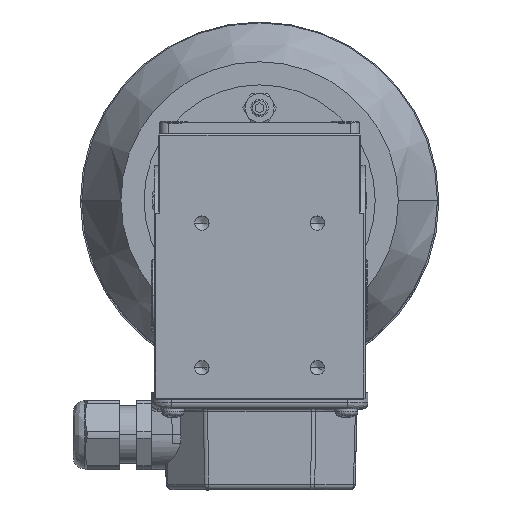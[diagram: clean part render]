
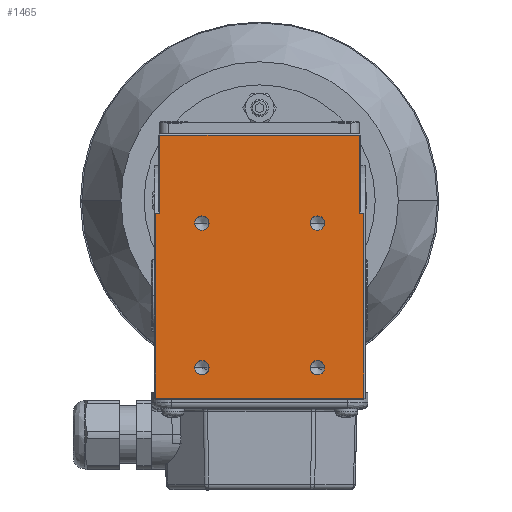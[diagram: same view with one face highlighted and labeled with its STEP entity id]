
A CAD part, top view. The second image highlights one B-rep face of the part: STEP entity #1465.
In plain terms, the highlighted planar face has unit normal (0, 0, 1).
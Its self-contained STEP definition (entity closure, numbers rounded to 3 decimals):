
#163 = DIRECTION ( 'NONE',  ( 1., 0., 0. ) ) ;
#459 = ORIENTED_EDGE ( 'NONE', *, *, #18308, .F. ) ;
#540 = CARTESIAN_POINT ( 'NONE',  ( -36., 56., 35. ) ) ;
#634 = CARTESIAN_POINT ( 'NONE',  ( -22.5, 25., 35. ) ) ;
#795 = CARTESIAN_POINT ( 'NONE',  ( -34.5, 55.5, 35. ) ) ;
#1042 = AXIS2_PLACEMENT_3D ( 'NONE', #1812, #9752, #4156 ) ;
#1127 = AXIS2_PLACEMENT_3D ( 'NONE', #9892, #11224, #9148 ) ;
#1377 = VERTEX_POINT ( 'NONE', #12931 ) ;
#1465 = ADVANCED_FACE ( 'NONE', ( #5448, #5834, #13224, #13625, #21575 ), #21163, .F. ) ;
#1598 = EDGE_CURVE ( 'NONE', #5089, #25063, #6005, .T. ) ;
#1697 = VERTEX_POINT ( 'NONE', #12645 ) ;
#1812 = CARTESIAN_POINT ( 'NONE',  ( 20., -25., 35. ) ) ;
#2008 = VECTOR ( 'NONE', #24921, 1000. ) ;
#2037 = DIRECTION ( 'NONE',  ( 0., -1., 0. ) ) ;
#2063 = LINE ( 'NONE', #6078, #15323 ) ;
#2746 = VECTOR ( 'NONE', #17972, 1000. ) ;
#2884 = VECTOR ( 'NONE', #2037, 1000. ) ;
#3007 = VERTEX_POINT ( 'NONE', #6832 ) ;
#3823 = ORIENTED_EDGE ( 'NONE', *, *, #25646, .T. ) ;
#3834 = DIRECTION ( 'NONE',  ( 0., 1., 0. ) ) ;
#3869 = DIRECTION ( 'NONE',  ( 0., 1., 0. ) ) ;
#3870 = CARTESIAN_POINT ( 'NONE',  ( -36., 28.284, 35. ) ) ;
#4144 = DIRECTION ( 'NONE',  ( 1., 0., 0. ) ) ;
#4156 = DIRECTION ( 'NONE',  ( 1., 0., 0. ) ) ;
#4343 = DIRECTION ( 'NONE',  ( 0., 0., 1. ) ) ;
#4498 = CARTESIAN_POINT ( 'NONE',  ( 17.5, 25., 35. ) ) ;
#4635 = EDGE_CURVE ( 'NONE', #11830, #21497, #10957, .T. ) ;
#4821 = CARTESIAN_POINT ( 'NONE',  ( 22.5, 25., 35. ) ) ;
#5089 = VERTEX_POINT ( 'NONE', #7043 ) ;
#5382 = DIRECTION ( 'NONE',  ( 0., 0., 1. ) ) ;
#5448 = FACE_BOUND ( 'NONE', #8088, .T. ) ;
#5698 = EDGE_CURVE ( 'NONE', #15799, #20010, #23585, .T. ) ;
#5711 = DIRECTION ( 'NONE',  ( 0., 0., -1. ) ) ;
#5834 = FACE_BOUND ( 'NONE', #21078, .T. ) ;
#6005 = CIRCLE ( 'NONE', #13014, 2.5 ) ;
#6078 = CARTESIAN_POINT ( 'NONE',  ( -42.5, -35.5, 35. ) ) ;
#6100 = CIRCLE ( 'NONE', #1127, 2.5 ) ;
#6163 = ORIENTED_EDGE ( 'NONE', *, *, #5698, .F. ) ;
#6361 = VERTEX_POINT ( 'NONE', #795 ) ;
#6533 = VECTOR ( 'NONE', #3834, 1000. ) ;
#6555 = AXIS2_PLACEMENT_3D ( 'NONE', #15239, #5382, #24918 ) ;
#6678 = DIRECTION ( 'NONE',  ( 1., 0., 0. ) ) ;
#6832 = CARTESIAN_POINT ( 'NONE',  ( 36., -35.5, 35. ) ) ;
#7043 = CARTESIAN_POINT ( 'NONE',  ( -17.5, 25., 35. ) ) ;
#7084 = EDGE_CURVE ( 'NONE', #13239, #6361, #7618, .T. ) ;
#7446 = EDGE_CURVE ( 'NONE', #1697, #1377, #13871, .T. ) ;
#7618 = LINE ( 'NONE', #13700, #19264 ) ;
#8021 = CARTESIAN_POINT ( 'NONE',  ( -34.5, 56., 35. ) ) ;
#8088 = EDGE_LOOP ( 'NONE', ( #10497, #18696 ) ) ;
#8404 = CARTESIAN_POINT ( 'NONE',  ( -20., 25., 35. ) ) ;
#8627 = CARTESIAN_POINT ( 'NONE',  ( -34.5, 28.284, 35. ) ) ;
#9057 = CIRCLE ( 'NONE', #14425, 2.5 ) ;
#9148 = DIRECTION ( 'NONE',  ( 1., 0., 0. ) ) ;
#9729 = CARTESIAN_POINT ( 'NONE',  ( -42.5, 56., 35. ) ) ;
#9752 = DIRECTION ( 'NONE',  ( 0., 0., 1. ) ) ;
#9856 = AXIS2_PLACEMENT_3D ( 'NONE', #22160, #4343, #20562 ) ;
#9892 = CARTESIAN_POINT ( 'NONE',  ( 20., 25., 35. ) ) ;
#9980 = CARTESIAN_POINT ( 'NONE',  ( 34.5, 56., 35. ) ) ;
#10038 = DIRECTION ( 'NONE',  ( 0., 0., 1. ) ) ;
#10124 = ORIENTED_EDGE ( 'NONE', *, *, #4635, .F. ) ;
#10497 = ORIENTED_EDGE ( 'NONE', *, *, #1598, .F. ) ;
#10804 = EDGE_CURVE ( 'NONE', #11830, #23112, #15233, .T. ) ;
#10957 = LINE ( 'NONE', #12764, #20946 ) ;
#11224 = DIRECTION ( 'NONE',  ( 0., 0., 1. ) ) ;
#11482 = ORIENTED_EDGE ( 'NONE', *, *, #23264, .T. ) ;
#11509 = DIRECTION ( 'NONE',  ( -1., 0., 0. ) ) ;
#11706 = DIRECTION ( 'NONE',  ( 1., 0., 0. ) ) ;
#11830 = VERTEX_POINT ( 'NONE', #3870 ) ;
#11925 = LINE ( 'NONE', #9980, #23569 ) ;
#12042 = DIRECTION ( 'NONE',  ( 0., 1., 0. ) ) ;
#12152 = VERTEX_POINT ( 'NONE', #12613 ) ;
#12613 = CARTESIAN_POINT ( 'NONE',  ( 36., 28.284, 35. ) ) ;
#12645 = CARTESIAN_POINT ( 'NONE',  ( -22.5, -25., 35. ) ) ;
#12764 = CARTESIAN_POINT ( 'NONE',  ( -35., 28.284, 35. ) ) ;
#12881 = CARTESIAN_POINT ( 'NONE',  ( 35., 28.284, 35. ) ) ;
#12931 = CARTESIAN_POINT ( 'NONE',  ( -17.5, -25., 35. ) ) ;
#13014 = AXIS2_PLACEMENT_3D ( 'NONE', #8404, #14366, #24063 ) ;
#13015 = ORIENTED_EDGE ( 'NONE', *, *, #10804, .T. ) ;
#13224 = FACE_BOUND ( 'NONE', #13966, .T. ) ;
#13239 = VERTEX_POINT ( 'NONE', #18207 ) ;
#13374 = VERTEX_POINT ( 'NONE', #14774 ) ;
#13401 = EDGE_LOOP ( 'NONE', ( #18404, #13583 ) ) ;
#13583 = ORIENTED_EDGE ( 'NONE', *, *, #7446, .F. ) ;
#13591 = LINE ( 'NONE', #23507, #6533 ) ;
#13602 = CIRCLE ( 'NONE', #18994, 2.5 ) ;
#13625 = FACE_BOUND ( 'NONE', #13401, .T. ) ;
#13700 = CARTESIAN_POINT ( 'NONE',  ( -42.5, 55.5, 35. ) ) ;
#13784 = CARTESIAN_POINT ( 'NONE',  ( -20., -25., 35. ) ) ;
#13871 = CIRCLE ( 'NONE', #18038, 2.5 ) ;
#13924 = CIRCLE ( 'NONE', #1042, 2.5 ) ;
#13952 = VERTEX_POINT ( 'NONE', #14192 ) ;
#13963 = CARTESIAN_POINT ( 'NONE',  ( -36., -35.5, 35. ) ) ;
#13966 = EDGE_LOOP ( 'NONE', ( #19681, #18583 ) ) ;
#14192 = CARTESIAN_POINT ( 'NONE',  ( 22.5, -25., 35. ) ) ;
#14366 = DIRECTION ( 'NONE',  ( 0., 0., 1. ) ) ;
#14425 = AXIS2_PLACEMENT_3D ( 'NONE', #17547, #15956, #11706 ) ;
#14721 = EDGE_CURVE ( 'NONE', #13374, #13952, #13924, .T. ) ;
#14774 = CARTESIAN_POINT ( 'NONE',  ( 17.5, -25., 35. ) ) ;
#15233 = LINE ( 'NONE', #540, #2746 ) ;
#15239 = CARTESIAN_POINT ( 'NONE',  ( -20., 25., 35. ) ) ;
#15323 = VECTOR ( 'NONE', #4144, 1000. ) ;
#15674 = LINE ( 'NONE', #8021, #2884 ) ;
#15682 = VERTEX_POINT ( 'NONE', #22846 ) ;
#15799 = VERTEX_POINT ( 'NONE', #4821 ) ;
#15956 = DIRECTION ( 'NONE',  ( 0., 0., 1. ) ) ;
#15983 = ORIENTED_EDGE ( 'NONE', *, *, #21354, .T. ) ;
#16776 = LINE ( 'NONE', #12881, #2008 ) ;
#17002 = EDGE_CURVE ( 'NONE', #1377, #1697, #13602, .T. ) ;
#17547 = CARTESIAN_POINT ( 'NONE',  ( 20., -25., 35. ) ) ;
#17601 = AXIS2_PLACEMENT_3D ( 'NONE', #9729, #5711, #3869 ) ;
#17743 = EDGE_CURVE ( 'NONE', #15682, #13239, #11925, .T. ) ;
#17962 = CARTESIAN_POINT ( 'NONE',  ( -20., -25., 35. ) ) ;
#17972 = DIRECTION ( 'NONE',  ( 0., -1., 0. ) ) ;
#18038 = AXIS2_PLACEMENT_3D ( 'NONE', #13784, #21478, #25535 ) ;
#18207 = CARTESIAN_POINT ( 'NONE',  ( 34.5, 55.5, 35. ) ) ;
#18308 = EDGE_CURVE ( 'NONE', #20010, #15799, #6100, .T. ) ;
#18404 = ORIENTED_EDGE ( 'NONE', *, *, #17002, .F. ) ;
#18583 = ORIENTED_EDGE ( 'NONE', *, *, #14721, .F. ) ;
#18696 = ORIENTED_EDGE ( 'NONE', *, *, #21580, .F. ) ;
#18746 = EDGE_LOOP ( 'NONE', ( #10124, #13015, #23647, #15983, #11482, #19004, #22024, #3823 ) ) ;
#18994 = AXIS2_PLACEMENT_3D ( 'NONE', #17962, #10038, #163 ) ;
#19004 = ORIENTED_EDGE ( 'NONE', *, *, #17743, .T. ) ;
#19009 = CIRCLE ( 'NONE', #6555, 2.5 ) ;
#19264 = VECTOR ( 'NONE', #11509, 1000. ) ;
#19458 = EDGE_CURVE ( 'NONE', #13952, #13374, #9057, .T. ) ;
#19681 = ORIENTED_EDGE ( 'NONE', *, *, #19458, .F. ) ;
#20010 = VERTEX_POINT ( 'NONE', #4498 ) ;
#20562 = DIRECTION ( 'NONE',  ( 1., 0., 0. ) ) ;
#20946 = VECTOR ( 'NONE', #6678, 1000. ) ;
#21078 = EDGE_LOOP ( 'NONE', ( #6163, #459 ) ) ;
#21163 = PLANE ( 'NONE',  #17601 ) ;
#21354 = EDGE_CURVE ( 'NONE', #3007, #12152, #13591, .T. ) ;
#21478 = DIRECTION ( 'NONE',  ( 0., 0., 1. ) ) ;
#21497 = VERTEX_POINT ( 'NONE', #8627 ) ;
#21575 = FACE_OUTER_BOUND ( 'NONE', #18746, .T. ) ;
#21580 = EDGE_CURVE ( 'NONE', #25063, #5089, #19009, .T. ) ;
#22024 = ORIENTED_EDGE ( 'NONE', *, *, #7084, .T. ) ;
#22160 = CARTESIAN_POINT ( 'NONE',  ( 20., 25., 35. ) ) ;
#22846 = CARTESIAN_POINT ( 'NONE',  ( 34.5, 28.284, 35. ) ) ;
#23112 = VERTEX_POINT ( 'NONE', #13963 ) ;
#23264 = EDGE_CURVE ( 'NONE', #12152, #15682, #16776, .T. ) ;
#23507 = CARTESIAN_POINT ( 'NONE',  ( 36., 56., 35. ) ) ;
#23569 = VECTOR ( 'NONE', #12042, 1000. ) ;
#23585 = CIRCLE ( 'NONE', #9856, 2.5 ) ;
#23647 = ORIENTED_EDGE ( 'NONE', *, *, #24331, .T. ) ;
#24063 = DIRECTION ( 'NONE',  ( 1., 0., 0. ) ) ;
#24331 = EDGE_CURVE ( 'NONE', #23112, #3007, #2063, .T. ) ;
#24918 = DIRECTION ( 'NONE',  ( 1., 0., 0. ) ) ;
#24921 = DIRECTION ( 'NONE',  ( -1., 0., 0. ) ) ;
#25063 = VERTEX_POINT ( 'NONE', #634 ) ;
#25535 = DIRECTION ( 'NONE',  ( 1., 0., 0. ) ) ;
#25646 = EDGE_CURVE ( 'NONE', #6361, #21497, #15674, .T. ) ;
